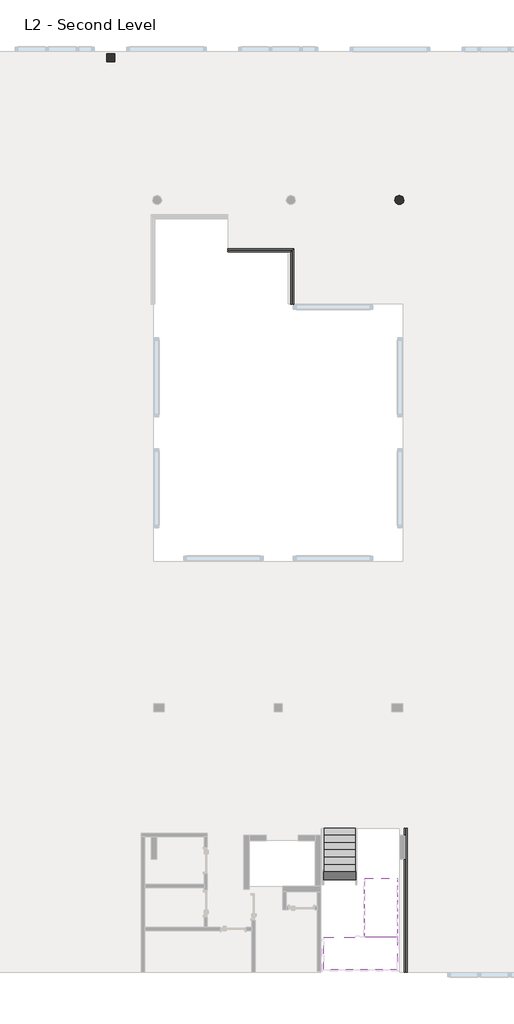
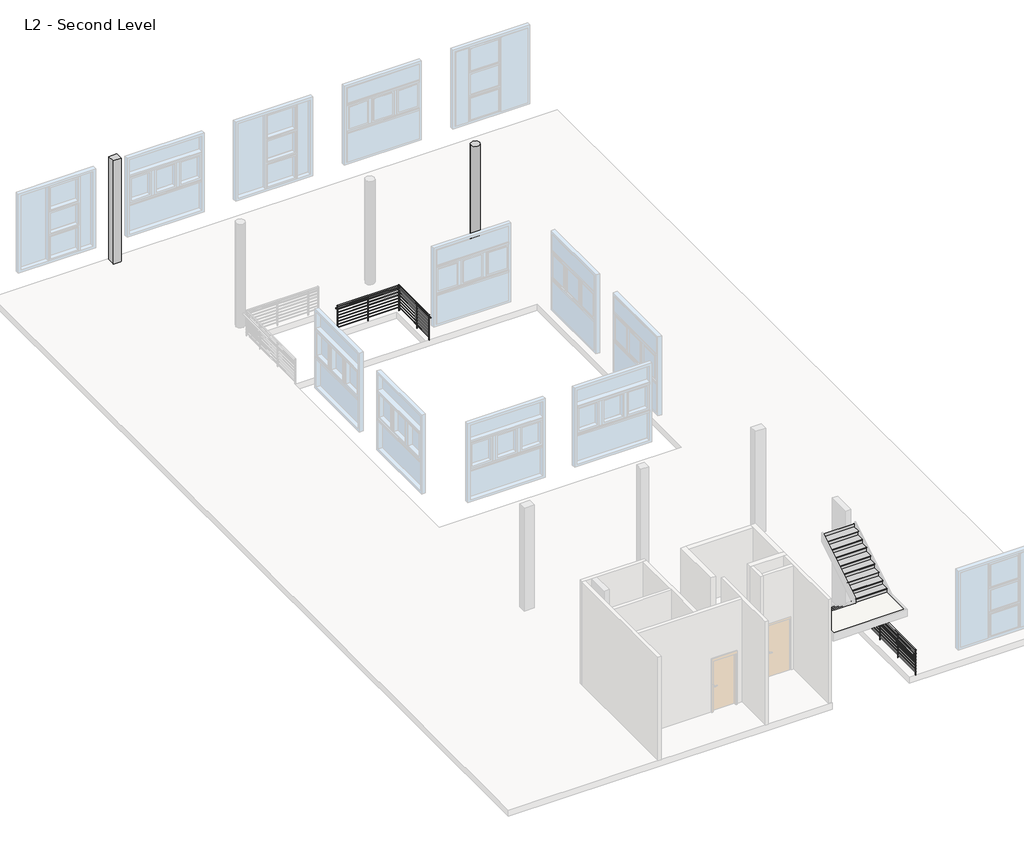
# One storey, part 2 of 3: 2 columns, 2 railings, 2 stair flights, 1 slab.
"""IFC4 building model written with IfcOpenShell, lengths in millimetres."""

from ifc_helpers import new_model, si_unit, point, frame, frame_2d, origin, place, context, project, spatial, polyline, circle_curve, ellipse_curve, trimmed, segment, composite_curve, outline, extrude, transform, mapped, element, save
from ifc_brep_helpers import plane_surface, cylinder_surface, advanced_brep
from components import non_monolithic_landing_6f77f96c, stair_flight_ed8aa051, stair_flight_40a3b3b1

model = new_model("IFC4")

# Units and contexts
model_context = context("Model", 3, world=origin())
ifc_project = project(units=[si_unit("LENGTHUNIT", "METRE", prefix="MILLI")], contexts=[model_context])

# Site, building, storey
site = spatial("IfcSite", under=ifc_project)
building = spatial("IfcBuilding", under=site)
storey = spatial("IfcBuildingStorey", under=building, Name="L2 - Second Level", Elevation=4470.4)

# Columns
placement = place(None, origin())
element("IfcColumn", 1, ObjectType="Concrete-Rectangular-Column : 12 x 12", at=placement, inside=storey, context=model_context, shape_type="SweptSolid", body=[
    extrude(outline(polyline([(8191.5, 35939.1031504), (8191.5, 35634.3031504), (7886.7, 35634.3031504), (7886.7, 35939.1031504), (8191.5, 35939.1031504)])), frame((0.0, 0.0, 4470.4), z_axis=(0.0, 0.0, 1.0), x_axis=(1.0, 0.0, 0.0)), (0.0, 0.0, 1.0), 4318.0),
])
element("IfcColumn", 2, ObjectType="Concrete-Round-Column : 14\"", at=placement, inside=storey, context=model_context, shape_type="SweptSolid", body=[
    extrude(outline(composite_curve([segment(trimmed(circle_curve(frame_2d((19127.0149773, 30324.5922166)), 177.8), [point((18949.2149773, 30324.5922166))], [point((19304.8149773, 30324.5922166))], False, "CARTESIAN"), True, "CONTINUOUS"), segment(trimmed(circle_curve(frame_2d((19127.0149773, 30324.5922166)), 177.8), [point((19304.8149773, 30324.5922166))], [point((18949.2149773, 30324.5922166))], False, "CARTESIAN"), True, "CONTINUOUS")], self_intersect=False)), frame((0.0, 0.0, 4470.4), z_axis=(0.0, 0.0, 1.0), x_axis=(1.0, 0.0, 0.0)), (0.0, 0.0, 1.0), 4318.0),
])

# Railings
element("IfcRailing", 3, ObjectType="Guardrail - Pipe", at=placement, inside=storey, context=model_context, shape_type="SweptSolid", body=[
    extrude(outline(composite_curve([segment(trimmed(circle_curve(frame_2d((5365.75, 19331.6258576)), 19.05), [point((5365.75, 19350.6758576))], [point((5365.75, 19312.5758576))], False, "CARTESIAN"), True, "CONTINUOUS"), segment(trimmed(circle_curve(frame_2d((5365.75, 19331.6258576)), 19.05), [point((5365.75, 19312.5758576))], [point((5365.75, 19350.6758576))], False, "CARTESIAN"), True, "CONTINUOUS")], self_intersect=False)), frame((0.0, 660.4, 0.0), z_axis=(0.0, 1.0, 0.0), x_axis=(0.0, 0.0, 1.0)), (0.0, 0.0, 1.0), 5537.1997725),
    extrude(outline(composite_curve([segment(trimmed(circle_curve(frame_2d((5518.15, 19407.8258576)), 19.05), [point((5518.15, 19426.8758576))], [point((5518.15, 19388.7758576))], False, "CARTESIAN"), True, "CONTINUOUS"), segment(trimmed(circle_curve(frame_2d((5518.15, 19407.8258576)), 19.05), [point((5518.15, 19388.7758576))], [point((5518.15, 19426.8758576))], False, "CARTESIAN"), True, "CONTINUOUS")], self_intersect=False)), frame((0.0, 660.4, 0.0), z_axis=(0.0, 1.0, 0.0), x_axis=(0.0, 0.0, 1.0)), (0.0, 0.0, 1.0), 5537.1997725),
    extrude(outline(composite_curve([segment(trimmed(circle_curve(frame_2d((5372.1, 19407.8258576)), 12.7), [point((5372.1, 19395.1258576))], [point((5372.1, 19420.5258576))], False, "CARTESIAN"), True, "CONTINUOUS"), segment(trimmed(circle_curve(frame_2d((5372.1, 19407.8258576)), 12.7), [point((5372.1, 19420.5258576))], [point((5372.1, 19395.1258576))], False, "CARTESIAN"), True, "CONTINUOUS")], self_intersect=False)), frame((0.0, 660.4, 0.0), z_axis=(0.0, 1.0, 0.0), x_axis=(0.0, 0.0, 1.0)), (0.0, 0.0, 1.0), 5537.1997725),
    extrude(outline(composite_curve([segment(trimmed(circle_curve(frame_2d((5245.1, 19407.8258576)), 12.7), [point((5245.1, 19395.1258576))], [point((5245.1, 19420.5258576))], False, "CARTESIAN"), True, "CONTINUOUS"), segment(trimmed(circle_curve(frame_2d((5245.1, 19407.8258576)), 12.7), [point((5245.1, 19420.5258576))], [point((5245.1, 19395.1258576))], False, "CARTESIAN"), True, "CONTINUOUS")], self_intersect=False)), frame((0.0, 660.4, 0.0), z_axis=(0.0, 1.0, 0.0), x_axis=(0.0, 0.0, 1.0)), (0.0, 0.0, 1.0), 5537.1997725),
    extrude(outline(composite_curve([segment(trimmed(circle_curve(frame_2d((5118.1, 19407.8258576)), 12.7), [point((5118.1, 19395.1258576))], [point((5118.1, 19420.5258576))], False, "CARTESIAN"), True, "CONTINUOUS"), segment(trimmed(circle_curve(frame_2d((5118.1, 19407.8258576)), 12.7), [point((5118.1, 19420.5258576))], [point((5118.1, 19395.1258576))], False, "CARTESIAN"), True, "CONTINUOUS")], self_intersect=False)), frame((0.0, 660.4, 0.0), z_axis=(0.0, 1.0, 0.0), x_axis=(0.0, 0.0, 1.0)), (0.0, 0.0, 1.0), 5537.1997725),
    extrude(outline(composite_curve([segment(trimmed(circle_curve(frame_2d((4991.1, 19407.8258576)), 12.7), [point((4991.1, 19395.1258576))], [point((4991.1, 19420.5258576))], False, "CARTESIAN"), True, "CONTINUOUS"), segment(trimmed(circle_curve(frame_2d((4991.1, 19407.8258576)), 12.7), [point((4991.1, 19420.5258576))], [point((4991.1, 19395.1258576))], False, "CARTESIAN"), True, "CONTINUOUS")], self_intersect=False)), frame((0.0, 660.4, 0.0), z_axis=(0.0, 1.0, 0.0), x_axis=(0.0, 0.0, 1.0)), (0.0, 0.0, 1.0), 5537.1997725),
    extrude(outline(composite_curve([segment(trimmed(circle_curve(frame_2d((4864.1, 19407.8258576)), 12.7), [point((4864.1, 19395.1258576))], [point((4864.1, 19420.5258576))], False, "CARTESIAN"), True, "CONTINUOUS"), segment(trimmed(circle_curve(frame_2d((4864.1, 19407.8258576)), 12.7), [point((4864.1, 19420.5258576))], [point((4864.1, 19395.1258576))], False, "CARTESIAN"), True, "CONTINUOUS")], self_intersect=False)), frame((0.0, 660.4, 0.0), z_axis=(0.0, 1.0, 0.0), x_axis=(0.0, 0.0, 1.0)), (0.0, 0.0, 1.0), 5537.1997725),
    extrude(outline(composite_curve([segment(trimmed(circle_curve(frame_2d((4737.1, 19407.8258576)), 12.7), [point((4737.1, 19395.1258576))], [point((4737.1, 19420.5258576))], False, "CARTESIAN"), True, "CONTINUOUS"), segment(trimmed(circle_curve(frame_2d((4737.1, 19407.8258576)), 12.7), [point((4737.1, 19420.5258576))], [point((4737.1, 19395.1258576))], False, "CARTESIAN"), True, "CONTINUOUS")], self_intersect=False)), frame((0.0, 660.4, 0.0), z_axis=(0.0, 1.0, 0.0), x_axis=(0.0, 0.0, 1.0)), (0.0, 0.0, 1.0), 5537.1997725),
    extrude(outline(composite_curve([segment(trimmed(circle_curve(frame_2d((4610.1, 19407.8258576)), 12.7), [point((4610.1, 19395.1258576))], [point((4610.1, 19420.5258576))], False, "CARTESIAN"), True, "CONTINUOUS"), segment(trimmed(circle_curve(frame_2d((4610.1, 19407.8258576)), 12.7), [point((4610.1, 19420.5258576))], [point((4610.1, 19395.1258576))], False, "CARTESIAN"), True, "CONTINUOUS")], self_intersect=False)), frame((0.0, 660.4, 0.0), z_axis=(0.0, 1.0, 0.0), x_axis=(0.0, 0.0, 1.0)), (0.0, 0.0, 1.0), 5537.1997725),
    extrude(outline(composite_curve([segment(trimmed(circle_curve(frame_2d((19407.8258576, 5537.2)), 12.7), [point((19395.1258576, 5537.2))], [point((19420.5258576, 5537.2))], False, "CARTESIAN"), True, "CONTINUOUS"), segment(trimmed(circle_curve(frame_2d((19407.8258576, 5537.2)), 12.7), [point((19420.5258576, 5537.2))], [point((19395.1258576, 5537.2))], False, "CARTESIAN"), True, "CONTINUOUS")], self_intersect=False)), frame((0.0, 0.0, 4470.4), z_axis=(0.0, 0.0, 1.0), x_axis=(1.0, 0.0, 0.0)), (0.0, 0.0, 1.0), 1028.7),
    extrude(outline(composite_curve([segment(trimmed(circle_curve(frame_2d((19407.8258576, 4318.0)), 12.7), [point((19395.1258576, 4318.0))], [point((19420.5258576, 4318.0))], False, "CARTESIAN"), True, "CONTINUOUS"), segment(trimmed(circle_curve(frame_2d((19407.8258576, 4318.0)), 12.7), [point((19420.5258576, 4318.0))], [point((19395.1258576, 4318.0))], False, "CARTESIAN"), True, "CONTINUOUS")], self_intersect=False)), frame((0.0, 0.0, 4470.4), z_axis=(0.0, 0.0, 1.0), x_axis=(1.0, 0.0, 0.0)), (0.0, 0.0, 1.0), 1028.7),
    extrude(outline(composite_curve([segment(trimmed(circle_curve(frame_2d((19407.8258576, 3098.8)), 12.7), [point((19395.1258576, 3098.8))], [point((19420.5258576, 3098.8))], False, "CARTESIAN"), True, "CONTINUOUS"), segment(trimmed(circle_curve(frame_2d((19407.8258576, 3098.8)), 12.7), [point((19420.5258576, 3098.8))], [point((19395.1258576, 3098.8))], False, "CARTESIAN"), True, "CONTINUOUS")], self_intersect=False)), frame((0.0, 0.0, 4470.4), z_axis=(0.0, 0.0, 1.0), x_axis=(1.0, 0.0, 0.0)), (0.0, 0.0, 1.0), 1028.7),
    extrude(outline(composite_curve([segment(trimmed(circle_curve(frame_2d((19407.8258576, 1879.6)), 12.7), [point((19395.1258576, 1879.6))], [point((19420.5258576, 1879.6))], False, "CARTESIAN"), True, "CONTINUOUS"), segment(trimmed(circle_curve(frame_2d((19407.8258576, 1879.6)), 12.7), [point((19420.5258576, 1879.6))], [point((19395.1258576, 1879.6))], False, "CARTESIAN"), True, "CONTINUOUS")], self_intersect=False)), frame((0.0, 0.0, 4470.4), z_axis=(0.0, 0.0, 1.0), x_axis=(1.0, 0.0, 0.0)), (0.0, 0.0, 1.0), 1028.7),
    extrude(outline(composite_curve([segment(trimmed(circle_curve(frame_2d((19407.8258576, 6184.8997725)), 12.7), [point((19395.1258576, 6184.8997725))], [point((19420.5258576, 6184.8997725))], False, "CARTESIAN"), True, "CONTINUOUS"), segment(trimmed(circle_curve(frame_2d((19407.8258576, 6184.8997725)), 12.7), [point((19420.5258576, 6184.8997725))], [point((19395.1258576, 6184.8997725))], False, "CARTESIAN"), True, "CONTINUOUS")], self_intersect=False)), frame((0.0, 0.0, 4470.4), z_axis=(0.0, 0.0, 1.0), x_axis=(1.0, 0.0, 0.0)), (0.0, 0.0, 1.0), 1028.7),
    extrude(outline(composite_curve([segment(trimmed(circle_curve(frame_2d((19407.8258576, 673.1)), 12.7), [point((19395.1258576, 673.1))], [point((19420.5258576, 673.1))], False, "CARTESIAN"), True, "CONTINUOUS"), segment(trimmed(circle_curve(frame_2d((19407.8258576, 673.1)), 12.7), [point((19420.5258576, 673.1))], [point((19395.1258576, 673.1))], False, "CARTESIAN"), True, "CONTINUOUS")], self_intersect=False)), frame((0.0, 0.0, 4470.4), z_axis=(0.0, 0.0, 1.0), x_axis=(1.0, 0.0, 0.0)), (0.0, 0.0, 1.0), 1028.7),
])
element("IfcRailing", 4, ObjectType="Guardrail - Pipe", at=placement, inside=storey, context=model_context, shape_type="SolidModel", body=[
    advanced_brep(
    [(12534.9000296, 28416.2498803, 5365.75), (12534.9000296, 28454.3498803, 5365.75), (15043.1500014, 28416.2498803, 5365.75), (15081.2500014, 28454.3498803, 5365.75), (15043.1500014, 26314.3998757, 5365.75), (15081.2500014, 26314.3998757, 5365.75)],
    [
        (0, 1, circle_curve(frame((12534.9000296, 28435.2998803, 5365.75), z_axis=(-1.0, 0.0, 0.0), x_axis=(0.0, 1.0, 0.0)), 19.05)),
        (1, 0, circle_curve(frame((12534.9000296, 28435.2998803, 5365.75), z_axis=(-1.0, 0.0, 0.0), x_axis=(0.0, 1.0, 0.0)), 19.05)),
        (0, 2),
        (2, 3, ellipse_curve(frame((15062.2000014, 28435.2998803, 5365.75), z_axis=(-0.7071067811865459, 0.7071067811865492, 0.0), x_axis=(-0.707106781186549, -0.707106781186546, 0.0)), 26.9407684, 19.05)),
        (3, 1),
        (3, 2, ellipse_curve(frame((15062.2000014, 28435.2998803, 5365.75), z_axis=(-0.7071067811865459, 0.7071067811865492, 0.0), x_axis=(-0.707106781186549, -0.707106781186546, 0.0)), 26.9407684, 19.05)),
        (4, 5, circle_curve(frame((15062.2000014, 26314.3998757, 5365.75), z_axis=(0.0, -1.0, 0.0), x_axis=(1.0, 0.0, 0.0)), 19.05)),
        (5, 4, circle_curve(frame((15062.2000014, 26314.3998757, 5365.75), z_axis=(0.0, -1.0, 0.0), x_axis=(1.0, 0.0, 0.0)), 19.05)),
        (2, 4),
        (5, 3),
    ],
    [
        plane_surface(frame((12534.9000296, 28435.2998803, 5384.8), z_axis=(-1.0, 0.0, 0.0), x_axis=(0.0, 1.0, 0.0))),
        cylinder_surface(frame((12534.9000296, 28435.2998803, 5365.75), z_axis=(-1.0, 0.0, 0.0), x_axis=(0.0, 1.0, 0.0)), 19.05),
        plane_surface(frame((15062.2000014, 26314.3998757, 5384.8), z_axis=(0.0, -1.0, 0.0), x_axis=(0.0, 0.0, -1.0))),
        cylinder_surface(frame((15062.2000014, 28435.2998803, 5365.75), z_axis=(0.0, 1.0, 0.0), x_axis=(1.0, 0.0, 0.0)), 19.05),
    ],
    [
        (0, [[1, 2]]),
        (1, [[-1, 3, 4, 5]]),
        (1, [[-2, -5, 6, -3]]),
        (2, [[7, 8]]),
        (3, [[-4, 9, -8, 10]]),
        (3, [[-6, -10, -7, -9]]),
    ],
),
    advanced_brep(
    [(12534.9000296, 28340.0498803, 5518.15), (12534.9000296, 28378.1498803, 5518.15), (14966.9500014, 26314.3998757, 5518.15), (15005.0500014, 26314.3998757, 5518.15), (14966.9500014, 28340.0498803, 5518.15), (15005.0500014, 28378.1498803, 5518.15)],
    [
        (0, 1, circle_curve(frame((12534.9000296, 28359.0998803, 5518.15), z_axis=(-1.0, 0.0, 0.0), x_axis=(0.0, 1.0, 0.0)), 19.05)),
        (1, 0, circle_curve(frame((12534.9000296, 28359.0998803, 5518.15), z_axis=(-1.0, 0.0, 0.0), x_axis=(0.0, 1.0, 0.0)), 19.05)),
        (2, 3, circle_curve(frame((14986.0000014, 26314.3998757, 5518.15), z_axis=(0.0, -1.0, 0.0), x_axis=(1.0, 0.0, 0.0)), 19.05)),
        (3, 2, circle_curve(frame((14986.0000014, 26314.3998757, 5518.15), z_axis=(0.0, -1.0, 0.0), x_axis=(1.0, 0.0, 0.0)), 19.05)),
        (0, 4),
        (4, 5, ellipse_curve(frame((14986.0000014, 28359.0998803, 5518.15), z_axis=(-0.7071067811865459, 0.7071067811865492, 0.0), x_axis=(-0.707106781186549, -0.707106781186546, 0.0)), 26.9407684, 19.05)),
        (5, 1),
        (5, 4, ellipse_curve(frame((14986.0000014, 28359.0998803, 5518.15), z_axis=(-0.7071067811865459, 0.7071067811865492, 0.0), x_axis=(-0.707106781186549, -0.707106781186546, 0.0)), 26.9407684, 19.05)),
        (4, 2),
        (3, 5),
    ],
    [
        plane_surface(frame((12534.9000296, 28359.0998803, 5537.2), z_axis=(-1.0, 0.0, 0.0), x_axis=(0.0, 1.0, 0.0))),
        plane_surface(frame((14986.0000014, 26314.3998757, 5537.2), z_axis=(0.0, -1.0, 0.0), x_axis=(0.0, 0.0, -1.0))),
        cylinder_surface(frame((12534.9000296, 28359.0998803, 5518.15), z_axis=(-1.0, 0.0, 0.0), x_axis=(0.0, 1.0, 0.0)), 19.05),
        cylinder_surface(frame((14986.0000014, 28359.0998803, 5518.15), z_axis=(0.0, 1.0, 0.0), x_axis=(1.0, 0.0, 0.0)), 19.05),
    ],
    [
        (0, [[1, 2]]),
        (1, [[3, 4]]),
        (2, [[-1, 5, 6, 7]]),
        (2, [[-2, -7, 8, -5]]),
        (3, [[-6, 9, -4, 10]]),
        (3, [[-8, -10, -3, -9]]),
    ],
),
    advanced_brep(
    [(12534.9000296, 28371.7998803, 5372.1), (12534.9000296, 28346.3998803, 5372.1), (14998.7000014, 28371.7998803, 5372.1), (14973.3000014, 28346.3998803, 5372.1), (14998.7000014, 26314.3998757, 5372.1), (14973.3000014, 26314.3998757, 5372.1)],
    [
        (0, 1, circle_curve(frame((12534.9000296, 28359.0998803, 5372.1), z_axis=(-1.0, 0.0, 0.0), x_axis=(0.0, -1.0, 0.0)), 12.7)),
        (1, 0, circle_curve(frame((12534.9000296, 28359.0998803, 5372.1), z_axis=(-1.0, 0.0, 0.0), x_axis=(0.0, -1.0, 0.0)), 12.7)),
        (0, 2),
        (2, 3, ellipse_curve(frame((14986.0000014, 28359.0998803, 5372.1), z_axis=(-0.7071067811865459, 0.7071067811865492, 0.0), x_axis=(-0.707106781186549, -0.707106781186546, 0.0)), 17.9605122, 12.7)),
        (3, 1),
        (3, 2, ellipse_curve(frame((14986.0000014, 28359.0998803, 5372.1), z_axis=(-0.7071067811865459, 0.7071067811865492, 0.0), x_axis=(-0.707106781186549, -0.707106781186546, 0.0)), 17.9605122, 12.7)),
        (4, 5, circle_curve(frame((14986.0000014, 26314.3998757, 5372.1), z_axis=(0.0, -1.0, 0.0), x_axis=(-1.0, 0.0, 0.0)), 12.7)),
        (5, 4, circle_curve(frame((14986.0000014, 26314.3998757, 5372.1), z_axis=(0.0, -1.0, 0.0), x_axis=(-1.0, 0.0, 0.0)), 12.7)),
        (2, 4),
        (5, 3),
    ],
    [
        plane_surface(frame((12534.9000296, 28359.0998803, 5384.8), z_axis=(-1.0, 0.0, 0.0), x_axis=(0.0, 1.0, 0.0))),
        cylinder_surface(frame((12534.9000296, 28359.0998803, 5372.1), z_axis=(-1.0, 0.0, 0.0), x_axis=(0.0, -1.0, 0.0)), 12.7),
        plane_surface(frame((14986.0000014, 26314.3998757, 5384.8), z_axis=(0.0, -1.0, 0.0), x_axis=(0.0, 0.0, -1.0))),
        cylinder_surface(frame((14986.0000014, 28359.0998803, 5372.1), z_axis=(0.0, 1.0, 0.0), x_axis=(-1.0, 0.0, 0.0)), 12.7),
    ],
    [
        (0, [[1, 2]]),
        (1, [[-1, 3, 4, 5]]),
        (1, [[-2, -5, 6, -3]]),
        (2, [[7, 8]]),
        (3, [[-4, 9, -8, 10]]),
        (3, [[-6, -10, -7, -9]]),
    ],
),
    advanced_brep(
    [(12534.9000296, 28371.7998803, 5245.1), (12534.9000296, 28346.3998803, 5245.1), (14998.7000014, 28371.7998803, 5245.1), (14973.3000014, 28346.3998803, 5245.1), (14998.7000014, 26314.3998757, 5245.1), (14973.3000014, 26314.3998757, 5245.1)],
    [
        (0, 1, circle_curve(frame((12534.9000296, 28359.0998803, 5245.1), z_axis=(-1.0, 0.0, 0.0), x_axis=(0.0, -1.0, 0.0)), 12.7)),
        (1, 0, circle_curve(frame((12534.9000296, 28359.0998803, 5245.1), z_axis=(-1.0, 0.0, 0.0), x_axis=(0.0, -1.0, 0.0)), 12.7)),
        (0, 2),
        (2, 3, ellipse_curve(frame((14986.0000014, 28359.0998803, 5245.1), z_axis=(-0.7071067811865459, 0.7071067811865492, 0.0), x_axis=(-0.707106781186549, -0.707106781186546, 0.0)), 17.9605122, 12.7)),
        (3, 1),
        (3, 2, ellipse_curve(frame((14986.0000014, 28359.0998803, 5245.1), z_axis=(-0.7071067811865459, 0.7071067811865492, 0.0), x_axis=(-0.707106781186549, -0.707106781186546, 0.0)), 17.9605122, 12.7)),
        (4, 5, circle_curve(frame((14986.0000014, 26314.3998757, 5245.1), z_axis=(0.0, -1.0, 0.0), x_axis=(-1.0, 0.0, 0.0)), 12.7)),
        (5, 4, circle_curve(frame((14986.0000014, 26314.3998757, 5245.1), z_axis=(0.0, -1.0, 0.0), x_axis=(-1.0, 0.0, 0.0)), 12.7)),
        (2, 4),
        (5, 3),
    ],
    [
        plane_surface(frame((12534.9000296, 28359.0998803, 5257.8), z_axis=(-1.0, 0.0, 0.0), x_axis=(0.0, 1.0, 0.0))),
        cylinder_surface(frame((12534.9000296, 28359.0998803, 5245.1), z_axis=(-1.0, 0.0, 0.0), x_axis=(0.0, -1.0, 0.0)), 12.7),
        plane_surface(frame((14986.0000014, 26314.3998757, 5257.8), z_axis=(0.0, -1.0, 0.0), x_axis=(0.0, 0.0, -1.0))),
        cylinder_surface(frame((14986.0000014, 28359.0998803, 5245.1), z_axis=(0.0, 1.0, 0.0), x_axis=(-1.0, 0.0, 0.0)), 12.7),
    ],
    [
        (0, [[1, 2]]),
        (1, [[-1, 3, 4, 5]]),
        (1, [[-2, -5, 6, -3]]),
        (2, [[7, 8]]),
        (3, [[-4, 9, -8, 10]]),
        (3, [[-6, -10, -7, -9]]),
    ],
),
    advanced_brep(
    [(12534.9000296, 28371.7998803, 5118.1), (12534.9000296, 28346.3998803, 5118.1), (14998.7000014, 28371.7998803, 5118.1), (14973.3000014, 28346.3998803, 5118.1), (14998.7000014, 26314.3998757, 5118.1), (14973.3000014, 26314.3998757, 5118.1)],
    [
        (0, 1, circle_curve(frame((12534.9000296, 28359.0998803, 5118.1), z_axis=(-1.0, 0.0, 0.0), x_axis=(0.0, -1.0, 0.0)), 12.7)),
        (1, 0, circle_curve(frame((12534.9000296, 28359.0998803, 5118.1), z_axis=(-1.0, 0.0, 0.0), x_axis=(0.0, -1.0, 0.0)), 12.7)),
        (0, 2),
        (2, 3, ellipse_curve(frame((14986.0000014, 28359.0998803, 5118.1), z_axis=(-0.7071067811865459, 0.7071067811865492, 0.0), x_axis=(-0.707106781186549, -0.707106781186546, 0.0)), 17.9605122, 12.7)),
        (3, 1),
        (3, 2, ellipse_curve(frame((14986.0000014, 28359.0998803, 5118.1), z_axis=(-0.7071067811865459, 0.7071067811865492, 0.0), x_axis=(-0.707106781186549, -0.707106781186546, 0.0)), 17.9605122, 12.7)),
        (4, 5, circle_curve(frame((14986.0000014, 26314.3998757, 5118.1), z_axis=(0.0, -1.0, 0.0), x_axis=(-1.0, 0.0, 0.0)), 12.7)),
        (5, 4, circle_curve(frame((14986.0000014, 26314.3998757, 5118.1), z_axis=(0.0, -1.0, 0.0), x_axis=(-1.0, 0.0, 0.0)), 12.7)),
        (2, 4),
        (5, 3),
    ],
    [
        plane_surface(frame((12534.9000296, 28359.0998803, 5130.8), z_axis=(-1.0, 0.0, 0.0), x_axis=(0.0, 1.0, 0.0))),
        cylinder_surface(frame((12534.9000296, 28359.0998803, 5118.1), z_axis=(-1.0, 0.0, 0.0), x_axis=(0.0, -1.0, 0.0)), 12.7),
        plane_surface(frame((14986.0000014, 26314.3998757, 5130.8), z_axis=(0.0, -1.0, 0.0), x_axis=(0.0, 0.0, -1.0))),
        cylinder_surface(frame((14986.0000014, 28359.0998803, 5118.1), z_axis=(0.0, 1.0, 0.0), x_axis=(-1.0, 0.0, 0.0)), 12.7),
    ],
    [
        (0, [[1, 2]]),
        (1, [[-1, 3, 4, 5]]),
        (1, [[-2, -5, 6, -3]]),
        (2, [[7, 8]]),
        (3, [[-4, 9, -8, 10]]),
        (3, [[-6, -10, -7, -9]]),
    ],
),
    advanced_brep(
    [(12534.9000296, 28371.7998803, 4991.1), (12534.9000296, 28346.3998803, 4991.1), (14998.7000014, 28371.7998803, 4991.1), (14973.3000014, 28346.3998803, 4991.1), (14998.7000014, 26314.3998757, 4991.1), (14973.3000014, 26314.3998757, 4991.1)],
    [
        (0, 1, circle_curve(frame((12534.9000296, 28359.0998803, 4991.1), z_axis=(-1.0, 0.0, 0.0), x_axis=(0.0, -1.0, 0.0)), 12.7)),
        (1, 0, circle_curve(frame((12534.9000296, 28359.0998803, 4991.1), z_axis=(-1.0, 0.0, 0.0), x_axis=(0.0, -1.0, 0.0)), 12.7)),
        (0, 2),
        (2, 3, ellipse_curve(frame((14986.0000014, 28359.0998803, 4991.1), z_axis=(-0.7071067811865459, 0.7071067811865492, 0.0), x_axis=(-0.707106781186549, -0.707106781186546, 0.0)), 17.9605122, 12.7)),
        (3, 1),
        (3, 2, ellipse_curve(frame((14986.0000014, 28359.0998803, 4991.1), z_axis=(-0.7071067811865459, 0.7071067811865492, 0.0), x_axis=(-0.707106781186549, -0.707106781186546, 0.0)), 17.9605122, 12.7)),
        (4, 5, circle_curve(frame((14986.0000014, 26314.3998757, 4991.1), z_axis=(0.0, -1.0, 0.0), x_axis=(-1.0, 0.0, 0.0)), 12.7)),
        (5, 4, circle_curve(frame((14986.0000014, 26314.3998757, 4991.1), z_axis=(0.0, -1.0, 0.0), x_axis=(-1.0, 0.0, 0.0)), 12.7)),
        (2, 4),
        (5, 3),
    ],
    [
        plane_surface(frame((12534.9000296, 28359.0998803, 5003.8), z_axis=(-1.0, 0.0, 0.0), x_axis=(0.0, 1.0, 0.0))),
        cylinder_surface(frame((12534.9000296, 28359.0998803, 4991.1), z_axis=(-1.0, 0.0, 0.0), x_axis=(0.0, -1.0, 0.0)), 12.7),
        plane_surface(frame((14986.0000014, 26314.3998757, 5003.8), z_axis=(0.0, -1.0, 0.0), x_axis=(0.0, 0.0, -1.0))),
        cylinder_surface(frame((14986.0000014, 28359.0998803, 4991.1), z_axis=(0.0, 1.0, 0.0), x_axis=(-1.0, 0.0, 0.0)), 12.7),
    ],
    [
        (0, [[1, 2]]),
        (1, [[-1, 3, 4, 5]]),
        (1, [[-2, -5, 6, -3]]),
        (2, [[7, 8]]),
        (3, [[-4, 9, -8, 10]]),
        (3, [[-6, -10, -7, -9]]),
    ],
),
    advanced_brep(
    [(12534.9000296, 28371.7998803, 4864.1), (12534.9000296, 28346.3998803, 4864.1), (14998.7000014, 28371.7998803, 4864.1), (14973.3000014, 28346.3998803, 4864.1), (14998.7000014, 26314.3998757, 4864.1), (14973.3000014, 26314.3998757, 4864.1)],
    [
        (0, 1, circle_curve(frame((12534.9000296, 28359.0998803, 4864.1), z_axis=(-1.0, 0.0, 0.0), x_axis=(0.0, -1.0, 0.0)), 12.7)),
        (1, 0, circle_curve(frame((12534.9000296, 28359.0998803, 4864.1), z_axis=(-1.0, 0.0, 0.0), x_axis=(0.0, -1.0, 0.0)), 12.7)),
        (0, 2),
        (2, 3, ellipse_curve(frame((14986.0000014, 28359.0998803, 4864.1), z_axis=(-0.7071067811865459, 0.7071067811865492, 0.0), x_axis=(-0.707106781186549, -0.707106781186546, 0.0)), 17.9605122, 12.7)),
        (3, 1),
        (3, 2, ellipse_curve(frame((14986.0000014, 28359.0998803, 4864.1), z_axis=(-0.7071067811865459, 0.7071067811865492, 0.0), x_axis=(-0.707106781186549, -0.707106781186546, 0.0)), 17.9605122, 12.7)),
        (4, 5, circle_curve(frame((14986.0000014, 26314.3998757, 4864.1), z_axis=(0.0, -1.0, 0.0), x_axis=(-1.0, 0.0, 0.0)), 12.7)),
        (5, 4, circle_curve(frame((14986.0000014, 26314.3998757, 4864.1), z_axis=(0.0, -1.0, 0.0), x_axis=(-1.0, 0.0, 0.0)), 12.7)),
        (2, 4),
        (5, 3),
    ],
    [
        plane_surface(frame((12534.9000296, 28359.0998803, 4876.8), z_axis=(-1.0, 0.0, 0.0), x_axis=(0.0, 1.0, 0.0))),
        cylinder_surface(frame((12534.9000296, 28359.0998803, 4864.1), z_axis=(-1.0, 0.0, 0.0), x_axis=(0.0, -1.0, 0.0)), 12.7),
        plane_surface(frame((14986.0000014, 26314.3998757, 4876.8), z_axis=(0.0, -1.0, 0.0), x_axis=(0.0, 0.0, -1.0))),
        cylinder_surface(frame((14986.0000014, 28359.0998803, 4864.1), z_axis=(0.0, 1.0, 0.0), x_axis=(-1.0, 0.0, 0.0)), 12.7),
    ],
    [
        (0, [[1, 2]]),
        (1, [[-1, 3, 4, 5]]),
        (1, [[-2, -5, 6, -3]]),
        (2, [[7, 8]]),
        (3, [[-4, 9, -8, 10]]),
        (3, [[-6, -10, -7, -9]]),
    ],
),
    advanced_brep(
    [(12534.9000296, 28371.7998803, 4737.1), (12534.9000296, 28346.3998803, 4737.1), (14998.7000014, 28371.7998803, 4737.1), (14973.3000014, 28346.3998803, 4737.1), (14998.7000014, 26314.3998757, 4737.1), (14973.3000014, 26314.3998757, 4737.1)],
    [
        (0, 1, circle_curve(frame((12534.9000296, 28359.0998803, 4737.1), z_axis=(-1.0, 0.0, 0.0), x_axis=(0.0, -1.0, 0.0)), 12.7)),
        (1, 0, circle_curve(frame((12534.9000296, 28359.0998803, 4737.1), z_axis=(-1.0, 0.0, 0.0), x_axis=(0.0, -1.0, 0.0)), 12.7)),
        (0, 2),
        (2, 3, ellipse_curve(frame((14986.0000014, 28359.0998803, 4737.1), z_axis=(-0.7071067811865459, 0.7071067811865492, 0.0), x_axis=(-0.707106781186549, -0.707106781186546, 0.0)), 17.9605122, 12.7)),
        (3, 1),
        (3, 2, ellipse_curve(frame((14986.0000014, 28359.0998803, 4737.1), z_axis=(-0.7071067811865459, 0.7071067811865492, 0.0), x_axis=(-0.707106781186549, -0.707106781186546, 0.0)), 17.9605122, 12.7)),
        (4, 5, circle_curve(frame((14986.0000014, 26314.3998757, 4737.1), z_axis=(0.0, -1.0, 0.0), x_axis=(-1.0, 0.0, 0.0)), 12.7)),
        (5, 4, circle_curve(frame((14986.0000014, 26314.3998757, 4737.1), z_axis=(0.0, -1.0, 0.0), x_axis=(-1.0, 0.0, 0.0)), 12.7)),
        (2, 4),
        (5, 3),
    ],
    [
        plane_surface(frame((12534.9000296, 28359.0998803, 4749.8), z_axis=(-1.0, 0.0, 0.0), x_axis=(0.0, 1.0, 0.0))),
        cylinder_surface(frame((12534.9000296, 28359.0998803, 4737.1), z_axis=(-1.0, 0.0, 0.0), x_axis=(0.0, -1.0, 0.0)), 12.7),
        plane_surface(frame((14986.0000014, 26314.3998757, 4749.8), z_axis=(0.0, -1.0, 0.0), x_axis=(0.0, 0.0, -1.0))),
        cylinder_surface(frame((14986.0000014, 28359.0998803, 4737.1), z_axis=(0.0, 1.0, 0.0), x_axis=(-1.0, 0.0, 0.0)), 12.7),
    ],
    [
        (0, [[1, 2]]),
        (1, [[-1, 3, 4, 5]]),
        (1, [[-2, -5, 6, -3]]),
        (2, [[7, 8]]),
        (3, [[-4, 9, -8, 10]]),
        (3, [[-6, -10, -7, -9]]),
    ],
),
    advanced_brep(
    [(12534.9000296, 28371.7998803, 4610.1), (12534.9000296, 28346.3998803, 4610.1), (14998.7000014, 28371.7998803, 4610.1), (14973.3000014, 28346.3998803, 4610.1), (14998.7000014, 26314.3998757, 4610.1), (14973.3000014, 26314.3998757, 4610.1)],
    [
        (0, 1, circle_curve(frame((12534.9000296, 28359.0998803, 4610.1), z_axis=(-1.0, 0.0, 0.0), x_axis=(0.0, -1.0, 0.0)), 12.7)),
        (1, 0, circle_curve(frame((12534.9000296, 28359.0998803, 4610.1), z_axis=(-1.0, 0.0, 0.0), x_axis=(0.0, -1.0, 0.0)), 12.7)),
        (0, 2),
        (2, 3, ellipse_curve(frame((14986.0000014, 28359.0998803, 4610.1), z_axis=(-0.7071067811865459, 0.7071067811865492, 0.0), x_axis=(-0.707106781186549, -0.707106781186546, 0.0)), 17.9605122, 12.7)),
        (3, 1),
        (3, 2, ellipse_curve(frame((14986.0000014, 28359.0998803, 4610.1), z_axis=(-0.7071067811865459, 0.7071067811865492, 0.0), x_axis=(-0.707106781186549, -0.707106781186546, 0.0)), 17.9605122, 12.7)),
        (4, 5, circle_curve(frame((14986.0000014, 26314.3998757, 4610.1), z_axis=(0.0, -1.0, 0.0), x_axis=(-1.0, 0.0, 0.0)), 12.7)),
        (5, 4, circle_curve(frame((14986.0000014, 26314.3998757, 4610.1), z_axis=(0.0, -1.0, 0.0), x_axis=(-1.0, 0.0, 0.0)), 12.7)),
        (2, 4),
        (5, 3),
    ],
    [
        plane_surface(frame((12534.9000296, 28359.0998803, 4622.8), z_axis=(-1.0, 0.0, 0.0), x_axis=(0.0, 1.0, 0.0))),
        cylinder_surface(frame((12534.9000296, 28359.0998803, 4610.1), z_axis=(-1.0, 0.0, 0.0), x_axis=(0.0, -1.0, 0.0)), 12.7),
        plane_surface(frame((14986.0000014, 26314.3998757, 4622.8), z_axis=(0.0, -1.0, 0.0), x_axis=(0.0, 0.0, -1.0))),
        cylinder_surface(frame((14986.0000014, 28359.0998803, 4610.1), z_axis=(0.0, 1.0, 0.0), x_axis=(-1.0, 0.0, 0.0)), 12.7),
    ],
    [
        (0, [[1, 2]]),
        (1, [[-1, 3, 4, 5]]),
        (1, [[-2, -5, 6, -3]]),
        (2, [[7, 8]]),
        (3, [[-4, 9, -8, 10]]),
        (3, [[-6, -10, -7, -9]]),
    ],
),
    extrude(outline(composite_curve([segment(trimmed(circle_curve(frame_2d((14986.0000014, 27139.8998803)), 12.7), [point((14998.7000014, 27139.8998803))], [point((14973.3000014, 27139.8998803))], False, "CARTESIAN"), True, "CONTINUOUS"), segment(trimmed(circle_curve(frame_2d((14986.0000014, 27139.8998803)), 12.7), [point((14973.3000014, 27139.8998803))], [point((14998.7000014, 27139.8998803))], False, "CARTESIAN"), True, "CONTINUOUS")], self_intersect=False)), frame((0.0, 0.0, 4470.4), z_axis=(0.0, 0.0, 1.0), x_axis=(1.0, 0.0, 0.0)), (0.0, 0.0, 1.0), 1028.7),
    extrude(outline(composite_curve([segment(trimmed(circle_curve(frame_2d((14973.3000296, 28359.0998803)), 12.7), [point((14973.3000296, 28371.7998803))], [point((14973.3000296, 28346.3998803))], False, "CARTESIAN"), True, "CONTINUOUS"), segment(trimmed(circle_curve(frame_2d((14973.3000296, 28359.0998803)), 12.7), [point((14973.3000296, 28346.3998803))], [point((14973.3000296, 28371.7998803))], False, "CARTESIAN"), True, "CONTINUOUS")], self_intersect=False)), frame((0.0, 0.0, 4470.4), z_axis=(0.0, 0.0, 1.0), x_axis=(1.0, 0.0, 0.0)), (0.0, 0.0, 1.0), 1028.7),
    extrude(outline(composite_curve([segment(trimmed(circle_curve(frame_2d((13754.1000296, 28359.0998803)), 12.7), [point((13754.1000296, 28371.7998803))], [point((13754.1000296, 28346.3998803))], False, "CARTESIAN"), True, "CONTINUOUS"), segment(trimmed(circle_curve(frame_2d((13754.1000296, 28359.0998803)), 12.7), [point((13754.1000296, 28346.3998803))], [point((13754.1000296, 28371.7998803))], False, "CARTESIAN"), True, "CONTINUOUS")], self_intersect=False)), frame((0.0, 0.0, 4470.4), z_axis=(0.0, 0.0, 1.0), x_axis=(1.0, 0.0, 0.0)), (0.0, 0.0, 1.0), 1028.7),
    extrude(outline(composite_curve([segment(trimmed(circle_curve(frame_2d((14986.0000014, 28359.0998803)), 12.7), [point((14986.0000014, 28371.7998803))], [point((14986.0000014, 28346.3998803))], False, "CARTESIAN"), True, "CONTINUOUS"), segment(trimmed(circle_curve(frame_2d((14986.0000014, 28359.0998803)), 12.7), [point((14986.0000014, 28346.3998803))], [point((14986.0000014, 28371.7998803))], False, "CARTESIAN"), True, "CONTINUOUS")], self_intersect=False)), frame((0.0, 0.0, 4470.4), z_axis=(0.0, 0.0, 1.0), x_axis=(1.0, 0.0, 0.0)), (0.0, 0.0, 1.0), 1028.7),
    extrude(outline(composite_curve([segment(trimmed(circle_curve(frame_2d((14986.0000014, 26327.0998757)), 12.7), [point((14998.7000014, 26327.0998757))], [point((14973.3000014, 26327.0998757))], False, "CARTESIAN"), True, "CONTINUOUS"), segment(trimmed(circle_curve(frame_2d((14986.0000014, 26327.0998757)), 12.7), [point((14973.3000014, 26327.0998757))], [point((14998.7000014, 26327.0998757))], False, "CARTESIAN"), True, "CONTINUOUS")], self_intersect=False)), frame((0.0, 0.0, 4470.4), z_axis=(0.0, 0.0, 1.0), x_axis=(1.0, 0.0, 0.0)), (0.0, 0.0, 1.0), 1028.7),
    extrude(outline(composite_curve([segment(trimmed(circle_curve(frame_2d((12547.6000296, 28359.0998803)), 12.7), [point((12547.6000296, 28371.7998803))], [point((12547.6000296, 28346.3998803))], False, "CARTESIAN"), True, "CONTINUOUS"), segment(trimmed(circle_curve(frame_2d((12547.6000296, 28359.0998803)), 12.7), [point((12547.6000296, 28346.3998803))], [point((12547.6000296, 28371.7998803))], False, "CARTESIAN"), True, "CONTINUOUS")], self_intersect=False)), frame((0.0, 0.0, 4470.4), z_axis=(0.0, 0.0, 1.0), x_axis=(1.0, 0.0, 0.0)), (0.0, 0.0, 1.0), 1028.7),
])

# Slab
non_monolithic_landing_shape = non_monolithic_landing_6f77f96c(model_context)
element("IfcSlab", 5, ObjectType="Non-Monolithic Landing", at=placement, inside=storey, context=model_context, shape_type="MappedRepresentation", body=[
    mapped(non_monolithic_landing_shape, transform((0.0, 0.0, 0.0), x_axis=(1.0, 0.0, 0.0), y_axis=(0.0, 1.0, 0.0), z_axis=(0.0, 0.0, 1.0))),
])

# Stair flights
stair_flight_shape = stair_flight_ed8aa051(model_context)
element("IfcStairFlight", 6, ObjectType="2\" Tread 1\" Nosing 1/4\" Riser", at=placement, inside=storey, context=model_context, shape_type="MappedRepresentation", body=[
    mapped(stair_flight_shape, transform((0.0, 0.0, 0.0), x_axis=(1.0, 0.0, 0.0), y_axis=(0.0, 1.0, 0.0), z_axis=(0.0, 0.0, 1.0))),
])
stair_flight_2_shape = stair_flight_40a3b3b1(model_context)
element("IfcStairFlight", 7, ObjectType="2\" Tread 1\" Nosing 1/4\" Riser", at=placement, inside=storey, context=model_context, shape_type="MappedRepresentation", body=[
    mapped(stair_flight_2_shape, transform((0.0, 0.0, 0.0), x_axis=(1.0, 0.0, 0.0), y_axis=(0.0, 1.0, 0.0), z_axis=(0.0, 0.0, 1.0))),
])

save(model, "model.ifc")
